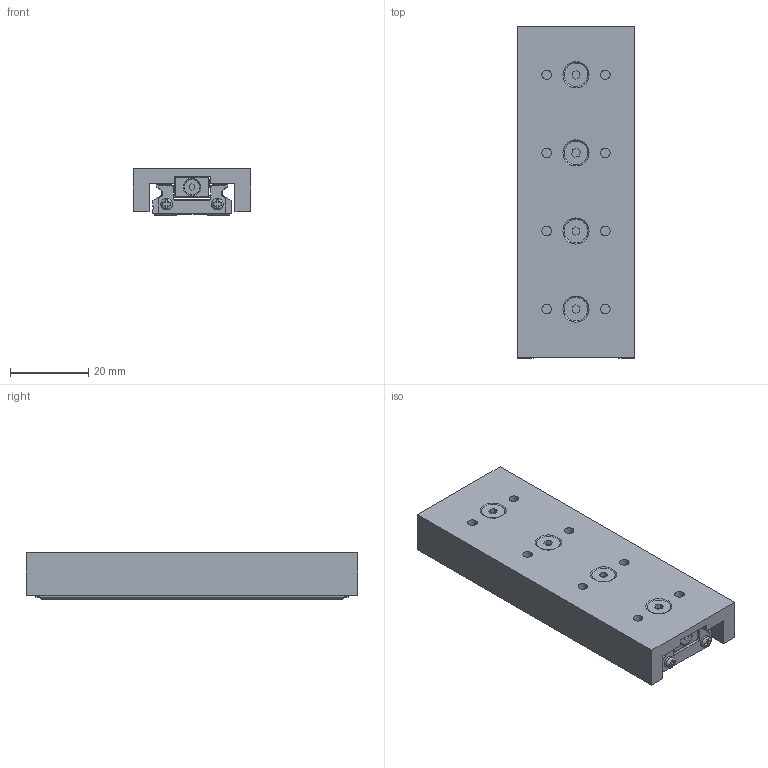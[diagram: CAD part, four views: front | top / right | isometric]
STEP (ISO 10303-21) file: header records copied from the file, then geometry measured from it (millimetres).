
FILE_DESCRIPTION(/* description */ ('MLO 30.085.078-ALU-SE'),/* implementation_level */ '2;1');
FILE_NAME(/* name */ 'ERO-078083.step',/* time_stamp */ '2025-07-02T13:13:29+02:00',/* author */ ('MM'),/* organization */ (''),/* preprocessor_version */ 'ST-DEVELOPER v19.2',/* originating_system */ 'Autodesk Inventor 2023',/* authorisation */ '');
FILE_SCHEMA (('AUTOMOTIVE_DESIGN { 1 0 10303 214 3 1 1 }'));
Length unit declared in the file: millimetre
Products named in the file (8): ERO-078083; ERO-041185; ERO-041183; ERO-041184; ERO-078084; ISO 4032 - SW5,5 - M3 - A2; ISO 10642 - M3 x  6 - A2/70; ERO-080425
Assembly tree (13 placements, depth 3):
  ERO-078083
    ERO-041185
      ERO-041183
      ERO-041184
    ERO-078084
    ISO 4032 - SW5,5 - M3 - A2  x4
    ISO 10642 - M3 x  6 - A2/70  x4
    ERO-080425
Bounding box: 30.01 x 85 x 12 mm (x, y, z)
Volume: 24162.7 mm3; surface area: 18735.2 mm2
Topology: 12 solids, 12 shells, 835 faces, 2174 edges, 1420 vertices
Faces by surface type: plane 587, cylinder 129, cone 58, bspline 45, torus 16
Full cylindrical faces by diameter (mm): 2.459 x12, 2.5 x8, 3 x16, 3.5 x8, 4 x2, 6 x12
Entity records: 24413 total; most frequent: CARTESIAN_POINT 4760, ORIENTED_EDGE 3960, DIRECTION 3645, EDGE_CURVE 1980, LINE 1507, VECTOR 1507, VERTEX_POINT 1300, AXIS2_PLACEMENT_3D 1069
